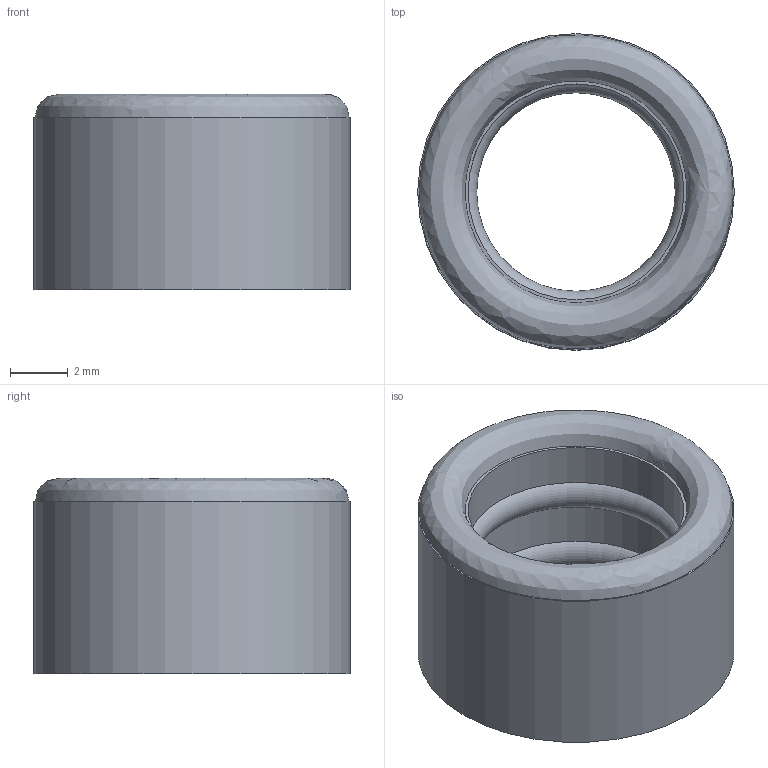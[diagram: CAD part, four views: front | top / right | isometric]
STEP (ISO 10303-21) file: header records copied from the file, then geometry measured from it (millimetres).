
FILE_DESCRIPTION(('FreeCAD Model'),'2;1');
FILE_NAME('Open CASCADE Shape Model','2026-09-29T21:45:28',('Author'),( ''),'Open CASCADE STEP processor 7.8','FreeCAD','Unknown');
FILE_SCHEMA(('AUTOMOTIVE_DESIGN { 1 0 10303 214 1 1 1 1 }'));
Length unit declared in the file: millimetre
Products named in the file (1): cable_seal_b6p9_L6p8
Bounding box: 11 x 11 x 6.8 mm (x, y, z)
Volume: 345.1 mm3; surface area: 484.9 mm2
Topology: 1 solids, 1 shells, 10 faces, 17 edges, 10 vertices
Faces by surface type: cylinder 4, plane 3, torus 2, bspline 1
Full cylindrical faces by diameter (mm): 7.5 x3, 11 x1
Entity records: 434 total; most frequent: CARTESIAN_POINT 231, DIRECTION 44, ORIENTED_EDGE 34, AXIS2_PLACEMENT_3D 20, EDGE_CURVE 17, FACE_BOUND 13, EDGE_LOOP 13, ADVANCED_FACE 10
